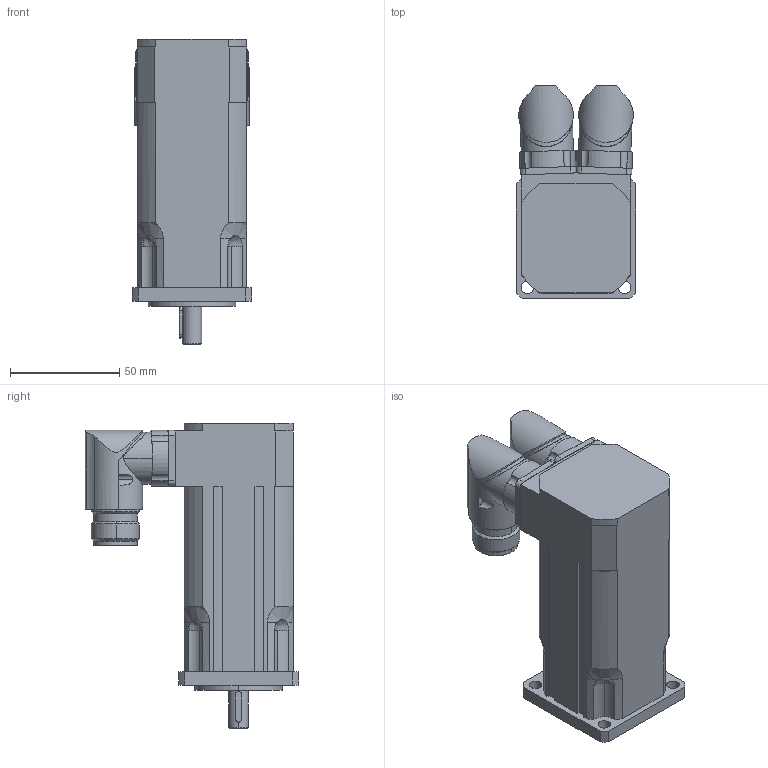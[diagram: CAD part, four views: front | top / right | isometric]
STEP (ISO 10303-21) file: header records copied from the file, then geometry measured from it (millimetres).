
FILE_DESCRIPTION(('STEP AP203'),'2;1');
FILE_NAME('MH2-0050_B.stp','2006-08-29T18:24:19',(''),(''),'2005.2.102','THINKDESIGN','');
FILE_SCHEMA(('CONFIG_CONTROL_DESIGN'));
Length unit declared in the file: millimetre
Bounding box: 55 x 97.7 x 140 mm (x, y, z)
Volume: 342961.3 mm3; surface area: 51156.6 mm2
Topology: 3 solids, 3 shells, 266 faces, 704 edges, 454 vertices
Faces by surface type: cylinder 120, plane 102, bspline 44
Entity records: 10039 total; most frequent: CARTESIAN_POINT 3358, ORIENTED_EDGE 1408, DIRECTION 1378, EDGE_CURVE 704, AXIS2_PLACEMENT_3D 528, VERTEX_POINT 454, VECTOR 322, LINE 322
